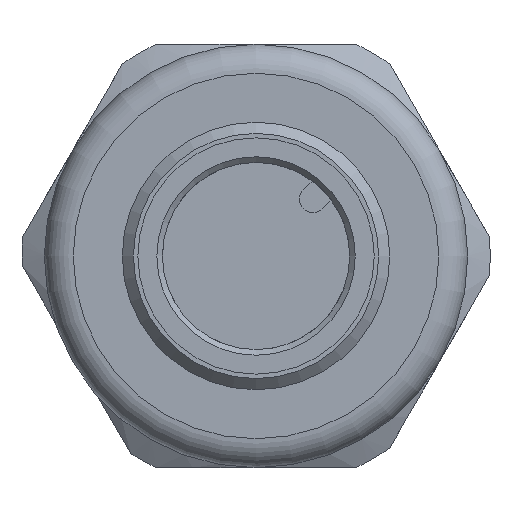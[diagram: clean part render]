
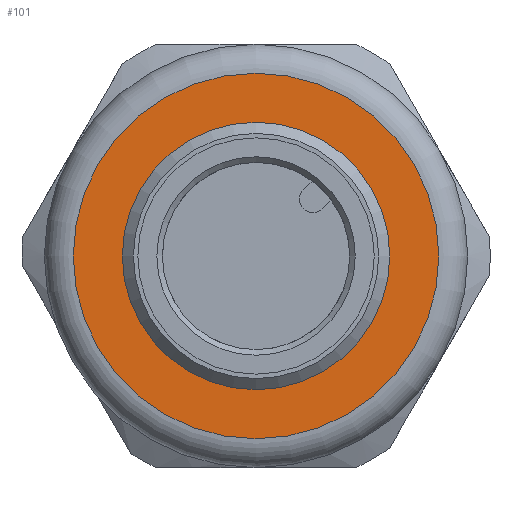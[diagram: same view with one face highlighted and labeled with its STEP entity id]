
A CAD part, left-side view. The second image highlights one B-rep face of the part: STEP entity #101.
In plain terms, the highlighted planar face has unit normal (-1, 0, 0).
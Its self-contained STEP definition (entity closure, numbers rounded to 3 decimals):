
#101 = ADVANCED_FACE( '', ( #202, #203 ), #204, .F. );
#202 = FACE_OUTER_BOUND( '', #363, .T. );
#203 = FACE_BOUND( '', #364, .T. );
#204 = PLANE( '', #365 );
#363 = EDGE_LOOP( '', ( #658 ) );
#364 = EDGE_LOOP( '', ( #659 ) );
#365 = AXIS2_PLACEMENT_3D( '', #660, #661, #662 );
#658 = ORIENTED_EDGE( '', *, *, #949, .F. );
#659 = ORIENTED_EDGE( '', *, *, #950, .T. );
#660 = CARTESIAN_POINT( '', ( -39.55, 6., 0. ) );
#661 = DIRECTION( '', ( 1., 0., 0. ) );
#662 = DIRECTION( '', ( 0., 0., -1. ) );
#949 = EDGE_CURVE( '', #1119, #1119, #1120, .T. );
#950 = EDGE_CURVE( '', #1121, #1121, #1122, .T. );
#1119 = VERTEX_POINT( '', #1503 );
#1120 = CIRCLE( '', #1504, 8.2 );
#1121 = VERTEX_POINT( '', #1505 );
#1122 = CIRCLE( '', #1506, 6. );
#1503 = CARTESIAN_POINT( '', ( -39.55, 0., -8.2 ) );
#1504 = AXIS2_PLACEMENT_3D( '', #1693, #1694, #1695 );
#1505 = CARTESIAN_POINT( '', ( -39.55, 0., -6. ) );
#1506 = AXIS2_PLACEMENT_3D( '', #1696, #1697, #1698 );
#1693 = CARTESIAN_POINT( '', ( -39.55, 0., 0. ) );
#1694 = DIRECTION( '', ( 1., 0., 0. ) );
#1695 = DIRECTION( '', ( 0., 0., -1. ) );
#1696 = CARTESIAN_POINT( '', ( -39.55, 0., 0. ) );
#1697 = DIRECTION( '', ( 1., 0., 0. ) );
#1698 = DIRECTION( '', ( 0., 0., -1. ) );
